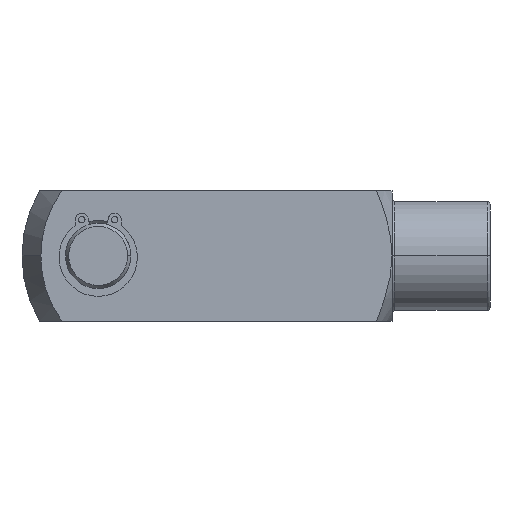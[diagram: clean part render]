
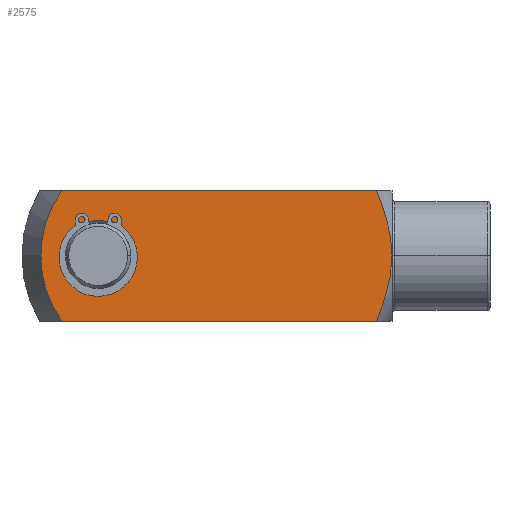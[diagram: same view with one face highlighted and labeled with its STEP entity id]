
A CAD part, top view. The second image highlights one B-rep face of the part: STEP entity #2575.
In plain terms, the highlighted planar face has unit normal (0, 0, 1).
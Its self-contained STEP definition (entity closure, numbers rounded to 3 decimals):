
#200 = VERTEX_POINT ( 'NONE', #722 ) ;
#217 = VERTEX_POINT ( 'NONE', #765 ) ;
#239 = EDGE_CURVE ( 'NONE', #217, #200, #776, .T. ) ;
#722 = CARTESIAN_POINT ( 'NONE',  ( -78.665, -12., 12. ) ) ;
#765 = CARTESIAN_POINT ( 'NONE',  ( -82.536, 0., 12. ) ) ;
#772 = DIRECTION ( 'NONE',  ( 1., 0., 0. ) ) ;
#773 = DIRECTION ( 'NONE',  ( 0., 0., 1. ) ) ;
#774 = CARTESIAN_POINT ( 'NONE',  ( -62., 0., 12. ) ) ;
#775 = AXIS2_PLACEMENT_3D ( 'NONE', #774, #773, #772 ) ;
#776 = CIRCLE ( 'NONE', #775, 20.536 ) ;
#1066 = DIRECTION ( 'NONE',  ( 1., 0., 0. ) ) ;
#1067 = VECTOR ( 'NONE', #1066, 1000. ) ;
#1068 = CARTESIAN_POINT ( 'NONE',  ( -86., -12., 12. ) ) ;
#1069 = LINE ( 'NONE', #1068, #1067 ) ;
#1070 = DIRECTION ( 'NONE',  ( 1., 0., 0. ) ) ;
#1071 = DIRECTION ( 'NONE',  ( 0., 0., 1. ) ) ;
#1072 = CARTESIAN_POINT ( 'NONE',  ( -62., 0., 12. ) ) ;
#1073 = AXIS2_PLACEMENT_3D ( 'NONE', #1072, #1071, #1070 ) ;
#1074 = CIRCLE ( 'NONE', #1073, 20.536 ) ;
#1102 = CARTESIAN_POINT ( 'NONE',  ( -18., 0., 12. ) ) ;
#1103 = CARTESIAN_POINT ( 'NONE',  ( -18., 0.522, 12. ) ) ;
#1104 = CARTESIAN_POINT ( 'NONE',  ( -18.02, 1.046, 12. ) ) ;
#1105 = CARTESIAN_POINT ( 'NONE',  ( -18.097, 2.082, 12. ) ) ;
#1106 = CARTESIAN_POINT ( 'NONE',  ( -18.155, 2.596, 12. ) ) ;
#1107 = CARTESIAN_POINT ( 'NONE',  ( -18.376, 4.127, 12. ) ) ;
#1108 = CARTESIAN_POINT ( 'NONE',  ( -18.59, 5.134, 12. ) ) ;
#1109 = CARTESIAN_POINT ( 'NONE',  ( -19.113, 7.127, 12. ) ) ;
#1110 = CARTESIAN_POINT ( 'NONE',  ( -19.423, 8.113, 12. ) ) ;
#1111 = CARTESIAN_POINT ( 'NONE',  ( -20.106, 10.072, 12. ) ) ;
#1112 = CARTESIAN_POINT ( 'NONE',  ( -20.479, 11.042, 12. ) ) ;
#1113 = CARTESIAN_POINT ( 'NONE',  ( -20.87, 12., 12. ) ) ;
#1117 = B_SPLINE_CURVE_WITH_KNOTS ( 'NONE', 3,
 ( #1113, #1112, #1111, #1110, #1109, #1108, #1107, #1106, #1105, #1104, #1103, #1102 ),
 .UNSPECIFIED., .F., .F.,
 ( 4, 2, 2, 2, 2, 4 ),
 ( 0.036, 0.039, 0.042, 0.045, 0.047, 0.048 ),
 .UNSPECIFIED. ) ;
#1121 = DIRECTION ( 'NONE',  ( 1., 0., 0. ) ) ;
#1122 = VECTOR ( 'NONE', #1121, 1000. ) ;
#1123 = CARTESIAN_POINT ( 'NONE',  ( -86., 12., 12. ) ) ;
#1124 = LINE ( 'NONE', #1123, #1122 ) ;
#1125 = CARTESIAN_POINT ( 'NONE',  ( -20.87, -12., 12. ) ) ;
#1126 = CARTESIAN_POINT ( 'NONE',  ( -78.665, 12., 12. ) ) ;
#1397 = DIRECTION ( 'NONE',  ( 1., 0., 0. ) ) ;
#1398 = DIRECTION ( 'NONE',  ( 0., 0., -1. ) ) ;
#1399 = CARTESIAN_POINT ( 'NONE',  ( -72., 0., 12. ) ) ;
#1400 = AXIS2_PLACEMENT_3D ( 'NONE', #1399, #1398, #1397 ) ;
#1401 = CIRCLE ( 'NONE', #1400, 6.5 ) ;
#1402 = CARTESIAN_POINT ( 'NONE',  ( -78.5, 0., 12. ) ) ;
#1403 = CARTESIAN_POINT ( 'NONE',  ( -65.5, 0., 12. ) ) ;
#1439 = B_SPLINE_CURVE_WITH_KNOTS ( 'NONE', 3,
 ( #1499, #1498, #1497, #1496, #1495, #1494, #1493, #1492, #1491, #1490 ),
 .UNSPECIFIED., .F., .F.,
 ( 4, 2, 2, 2, 4 ),
 ( 0.048, 0.052, 0.055, 0.058, 0.061 ),
 .UNSPECIFIED. ) ;
#1469 = AXIS2_PLACEMENT_3D ( 'NONE', #1535, #1534, #1533 ) ;
#1470 = PLANE ( 'NONE',  #1469 ) ;
#1471 = FACE_OUTER_BOUND ( 'NONE', #2564, .T. ) ;
#1472 = FACE_BOUND ( 'NONE', #2563, .T. ) ;
#1473 = CARTESIAN_POINT ( 'NONE',  ( -20.87, 12., 12. ) ) ;
#1474 = DIRECTION ( 'NONE',  ( 1., 0., 0. ) ) ;
#1475 = DIRECTION ( 'NONE',  ( 0., 0., -1. ) ) ;
#1476 = CARTESIAN_POINT ( 'NONE',  ( -72., 0., 12. ) ) ;
#1477 = AXIS2_PLACEMENT_3D ( 'NONE', #1476, #1475, #1474 ) ;
#1478 = CIRCLE ( 'NONE', #1477, 6.5 ) ;
#1483 = CARTESIAN_POINT ( 'NONE',  ( -18., 0., 12. ) ) ;
#1490 = CARTESIAN_POINT ( 'NONE',  ( -20.87, -12., 12. ) ) ;
#1491 = CARTESIAN_POINT ( 'NONE',  ( -20.477, -11.039, 12. ) ) ;
#1492 = CARTESIAN_POINT ( 'NONE',  ( -20.104, -10.067, 12. ) ) ;
#1493 = CARTESIAN_POINT ( 'NONE',  ( -19.42, -8.105, 12. ) ) ;
#1494 = CARTESIAN_POINT ( 'NONE',  ( -19.11, -7.117, 12. ) ) ;
#1495 = CARTESIAN_POINT ( 'NONE',  ( -18.587, -5.123, 12. ) ) ;
#1496 = CARTESIAN_POINT ( 'NONE',  ( -18.374, -4.117, 12. ) ) ;
#1497 = CARTESIAN_POINT ( 'NONE',  ( -18.08, -2.079, 12. ) ) ;
#1498 = CARTESIAN_POINT ( 'NONE',  ( -18., -1.047, 12. ) ) ;
#1499 = CARTESIAN_POINT ( 'NONE',  ( -18., 0., 12. ) ) ;
#1533 = DIRECTION ( 'NONE',  ( 1., 0., 0. ) ) ;
#1534 = DIRECTION ( 'NONE',  ( 0., 0., 1. ) ) ;
#1535 = CARTESIAN_POINT ( 'NONE',  ( -86., -12., 12. ) ) ;
#2358 = EDGE_CURVE ( 'NONE', #2364, #217, #1074, .T. ) ;
#2359 = EDGE_CURVE ( 'NONE', #200, #2365, #1069, .T. ) ;
#2362 = ORIENTED_EDGE ( 'NONE', *, *, #239, .T. ) ;
#2364 = VERTEX_POINT ( 'NONE', #1126 ) ;
#2365 = VERTEX_POINT ( 'NONE', #1125 ) ;
#2366 = EDGE_CURVE ( 'NONE', #2364, #2569, #1124, .T. ) ;
#2368 = EDGE_CURVE ( 'NONE', #2569, #2561, #1117, .T. ) ;
#2509 = VERTEX_POINT ( 'NONE', #1403 ) ;
#2510 = VERTEX_POINT ( 'NONE', #1402 ) ;
#2511 = EDGE_CURVE ( 'NONE', #2509, #2510, #1401, .T. ) ;
#2555 = EDGE_CURVE ( 'NONE', #2561, #2365, #1439, .T. ) ;
#2561 = VERTEX_POINT ( 'NONE', #1483 ) ;
#2563 = EDGE_LOOP ( 'NONE', ( #2566, #2568 ) ) ;
#2564 = EDGE_LOOP ( 'NONE', ( #2571, #2574, #2362, #2573, #2572, #2570 ) ) ;
#2566 = ORIENTED_EDGE ( 'NONE', *, *, #2511, .T. ) ;
#2567 = EDGE_CURVE ( 'NONE', #2510, #2509, #1478, .T. ) ;
#2568 = ORIENTED_EDGE ( 'NONE', *, *, #2567, .T. ) ;
#2569 = VERTEX_POINT ( 'NONE', #1473 ) ;
#2570 = ORIENTED_EDGE ( 'NONE', *, *, #2368, .F. ) ;
#2571 = ORIENTED_EDGE ( 'NONE', *, *, #2366, .F. ) ;
#2572 = ORIENTED_EDGE ( 'NONE', *, *, #2555, .F. ) ;
#2573 = ORIENTED_EDGE ( 'NONE', *, *, #2359, .T. ) ;
#2574 = ORIENTED_EDGE ( 'NONE', *, *, #2358, .T. ) ;
#2575 = ADVANCED_FACE ( 'NONE', ( #1472, #1471 ), #1470, .T. ) ;
